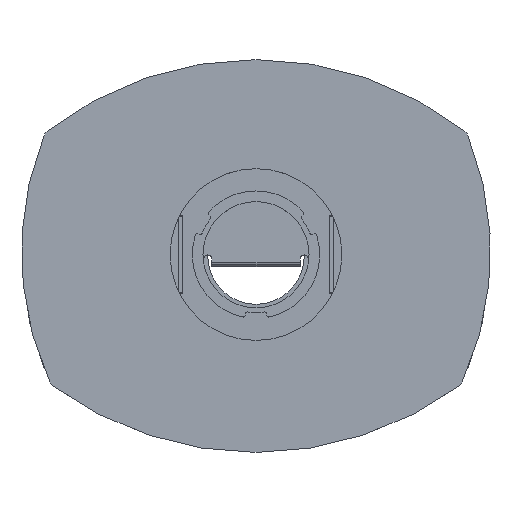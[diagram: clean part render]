
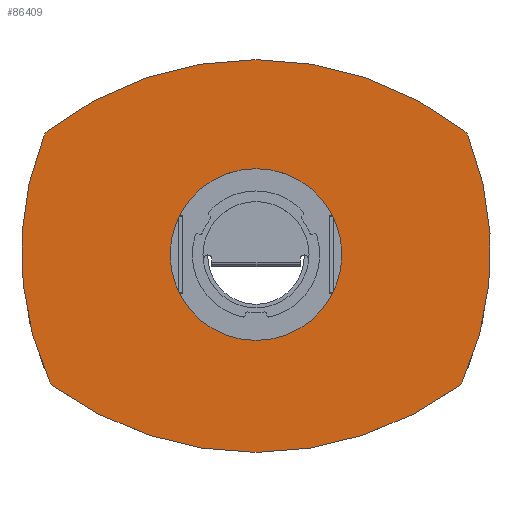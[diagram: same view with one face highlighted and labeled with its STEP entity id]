
A CAD part, top view. The second image highlights one B-rep face of the part: STEP entity #86409.
In plain terms, the highlighted planar face has unit normal (0, 0, 1).
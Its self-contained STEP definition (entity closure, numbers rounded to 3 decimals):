
#5735=CIRCLE('',#94001,89.);
#5738=CIRCLE('',#94005,10.);
#5739=CIRCLE('',#94007,355.);
#5740=CIRCLE('',#94008,10.);
#5741=CIRCLE('',#94009,323.);
#5742=CIRCLE('',#94010,10.);
#5743=CIRCLE('',#94011,352.);
#5744=CIRCLE('',#94012,10.);
#5745=CIRCLE('',#94013,323.);
#6123=FACE_BOUND('',#15271,.T.);
#10508=FACE_OUTER_BOUND('',#15270,.T.);
#15270=EDGE_LOOP('',(#74857,#74858,#74859,#74860,#74861,#74862,#74863,#74864));
#15271=EDGE_LOOP('',(#74865));
#38996=VERTEX_POINT('',#149435);
#39000=VERTEX_POINT('',#149444);
#39001=VERTEX_POINT('',#149446);
#39002=VERTEX_POINT('',#149450);
#39003=VERTEX_POINT('',#149452);
#39004=VERTEX_POINT('',#149454);
#39005=VERTEX_POINT('',#149456);
#39006=VERTEX_POINT('',#149458);
#39007=VERTEX_POINT('',#149460);
#50950=EDGE_CURVE('',#38996,#38996,#5735,.T.);
#50955=EDGE_CURVE('',#39000,#39001,#5738,.T.);
#50957=EDGE_CURVE('',#39002,#39000,#5739,.T.);
#50958=EDGE_CURVE('',#39003,#39002,#5740,.T.);
#50959=EDGE_CURVE('',#39004,#39003,#5741,.T.);
#50960=EDGE_CURVE('',#39005,#39004,#5742,.T.);
#50961=EDGE_CURVE('',#39006,#39005,#5743,.T.);
#50962=EDGE_CURVE('',#39007,#39006,#5744,.T.);
#50963=EDGE_CURVE('',#39001,#39007,#5745,.T.);
#74857=ORIENTED_EDGE('',*,*,#50955,.F.);
#74858=ORIENTED_EDGE('',*,*,#50957,.F.);
#74859=ORIENTED_EDGE('',*,*,#50958,.F.);
#74860=ORIENTED_EDGE('',*,*,#50959,.F.);
#74861=ORIENTED_EDGE('',*,*,#50960,.F.);
#74862=ORIENTED_EDGE('',*,*,#50961,.F.);
#74863=ORIENTED_EDGE('',*,*,#50962,.F.);
#74864=ORIENTED_EDGE('',*,*,#50963,.F.);
#74865=ORIENTED_EDGE('',*,*,#50950,.T.);
#77570=PLANE('',#94006);
#86409=ADVANCED_FACE('',(#10508,#6123),#77570,.F.);
#94001=AXIS2_PLACEMENT_3D('',#149436,#117029,#117030);
#94005=AXIS2_PLACEMENT_3D('',#149447,#117039,#117040);
#94006=AXIS2_PLACEMENT_3D('',#149449,#117042,#117043);
#94007=AXIS2_PLACEMENT_3D('',#149451,#117044,#117045);
#94008=AXIS2_PLACEMENT_3D('',#149453,#117046,#117047);
#94009=AXIS2_PLACEMENT_3D('',#149455,#117048,#117049);
#94010=AXIS2_PLACEMENT_3D('',#149457,#117050,#117051);
#94011=AXIS2_PLACEMENT_3D('',#149459,#117052,#117053);
#94012=AXIS2_PLACEMENT_3D('',#149461,#117054,#117055);
#94013=AXIS2_PLACEMENT_3D('',#149462,#117056,#117057);
#117029=DIRECTION('center_axis',(0.,0.,
-1.));
#117030=DIRECTION('ref_axis',(1.,0.,0.));
#117039=DIRECTION('center_axis',(0.,0.,
-1.));
#117040=DIRECTION('ref_axis',(-0.776,-0.631,0.));
#117042=DIRECTION('center_axis',(0.,0.,
-1.));
#117043=DIRECTION('ref_axis',(1.,0.,0.));
#117044=DIRECTION('center_axis',(0.,0.,
-1.));
#117045=DIRECTION('ref_axis',(0.599,-0.801,0.));
#117046=DIRECTION('center_axis',(0.,0.,
-1.));
#117047=DIRECTION('ref_axis',(0.776,-0.631,0.));
#117048=DIRECTION('center_axis',(0.,0.,
-1.));
#117049=DIRECTION('ref_axis',(0.924,0.382,0.));
#117050=DIRECTION('center_axis',(0.,0.,
-1.));
#117051=DIRECTION('ref_axis',(0.798,0.602,0.));
#117052=DIRECTION('center_axis',(0.,0.,
-1.));
#117053=DIRECTION('ref_axis',(-0.621,0.784,0.));
#117054=DIRECTION('center_axis',(0.,0.,
-1.));
#117055=DIRECTION('ref_axis',(-0.798,0.602,0.));
#117056=DIRECTION('center_axis',(0.,0.,
-1.));
#117057=DIRECTION('ref_axis',(-0.906,-0.424,0.));
#149435=CARTESIAN_POINT('',(-89.,-150.,351.));
#149436=CARTESIAN_POINT('Origin',(0.,-150.,
351.));
#149444=CARTESIAN_POINT('',(-210.525,-285.84,351.));
#149446=CARTESIAN_POINT('',(-213.687,-281.95,351.));
#149447=CARTESIAN_POINT('Origin',(-204.595,-277.788,351.));
#149449=CARTESIAN_POINT('Origin',(0.,-151.453,
351.));
#149450=CARTESIAN_POINT('',(210.525,-285.84,351.));
#149451=CARTESIAN_POINT('Origin',(0.,0.,
351.));
#149452=CARTESIAN_POINT('',(213.687,-281.95,351.));
#149453=CARTESIAN_POINT('Origin',(204.595,-277.788,351.));
#149454=CARTESIAN_POINT('',(219.469,-26.473,351.));
#149455=CARTESIAN_POINT('Origin',(-80.,-147.5,351.));
#149456=CARTESIAN_POINT('',(216.343,-22.332,351.));
#149457=CARTESIAN_POINT('Origin',(210.197,-30.22,351.));
#149458=CARTESIAN_POINT('',(-216.343,-22.332,351.));
#149459=CARTESIAN_POINT('Origin',(0.,-300.,
351.));
#149460=CARTESIAN_POINT('',(-219.469,-26.473,351.));
#149461=CARTESIAN_POINT('Origin',(-210.197,-30.22,351.));
#149462=CARTESIAN_POINT('Origin',(80.,-147.5,351.));
